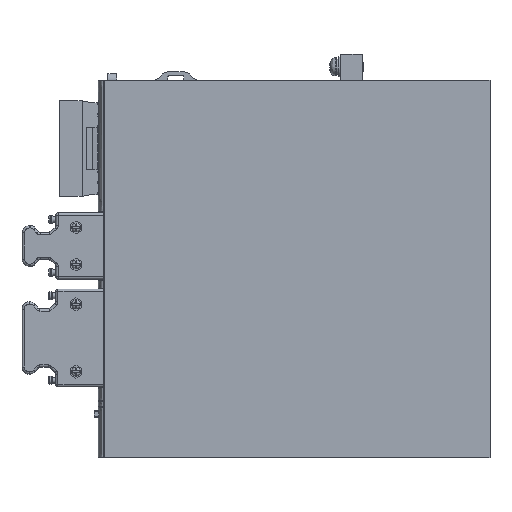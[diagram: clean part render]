
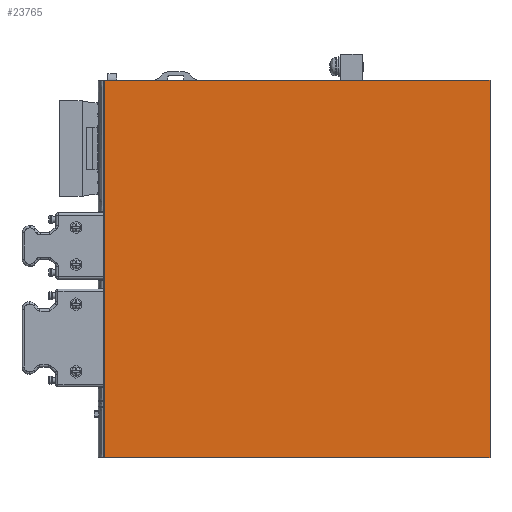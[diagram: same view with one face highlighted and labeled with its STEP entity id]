
A CAD part, left-side view. The second image highlights one B-rep face of the part: STEP entity #23765.
In plain terms, the highlighted planar face has unit normal (-1, 0, 0).
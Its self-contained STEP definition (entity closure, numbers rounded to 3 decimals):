
#2030=DIRECTION('',(0.,0.,1.));
#2031=VECTOR('',#2030,171.5);
#2032=CARTESIAN_POINT('',(-23.,-84.,0.));
#2033=LINE('',#2032,#2031);
#7132=DIRECTION('',(0.,-1.,0.));
#7133=VECTOR('',#7132,168.);
#7134=CARTESIAN_POINT('',(-23.,84.,171.5));
#7135=LINE('',#7134,#7133);
#7136=DIRECTION('',(0.,0.,1.));
#7137=VECTOR('',#7136,171.5);
#7138=CARTESIAN_POINT('',(-23.,84.,0.));
#7139=LINE('',#7138,#7137);
#7145=DIRECTION('',(0.,-1.,0.));
#7146=VECTOR('',#7145,168.);
#7147=CARTESIAN_POINT('',(-23.,84.,0.));
#7148=LINE('',#7147,#7146);
#12142=CARTESIAN_POINT('',(-23.,84.,0.));
#12143=CARTESIAN_POINT('',(-23.,-84.,0.));
#12144=VERTEX_POINT('',#12142);
#12145=VERTEX_POINT('',#12143);
#12580=CARTESIAN_POINT('',(-23.,84.,171.5));
#12581=CARTESIAN_POINT('',(-23.,-84.,171.5));
#12582=VERTEX_POINT('',#12580);
#12583=VERTEX_POINT('',#12581);
#23752=CARTESIAN_POINT('',(-23.,84.,0.));
#23753=DIRECTION('',(-1.,0.,0.));
#23754=DIRECTION('',(0.,-1.,0.));
#23755=AXIS2_PLACEMENT_3D('',#23752,#23753,#23754);
#23756=PLANE('',#23755);
#23757=ORIENTED_EDGE('',*,*,#23743,.T.);
#23758=ORIENTED_EDGE('',*,*,#16638,.F.);
#23760=ORIENTED_EDGE('',*,*,#23759,.F.);
#23762=ORIENTED_EDGE('',*,*,#23761,.T.);
#23763=EDGE_LOOP('',(#23757,#23758,#23760,#23762));
#23764=FACE_OUTER_BOUND('',#23763,.F.);
#23765=ADVANCED_FACE('',(#23764),#23756,.T.);
#16638=EDGE_CURVE('',#12145,#12583,#2033,.T.);
#23743=EDGE_CURVE('',#12582,#12583,#7135,.T.);
#23759=EDGE_CURVE('',#12144,#12145,#7148,.T.);
#23761=EDGE_CURVE('',#12144,#12582,#7139,.T.);
